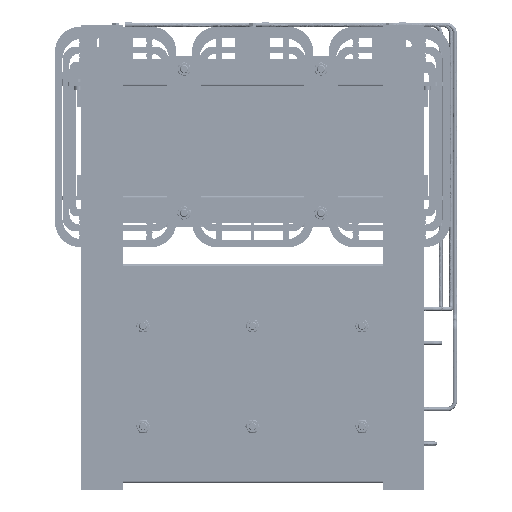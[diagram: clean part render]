
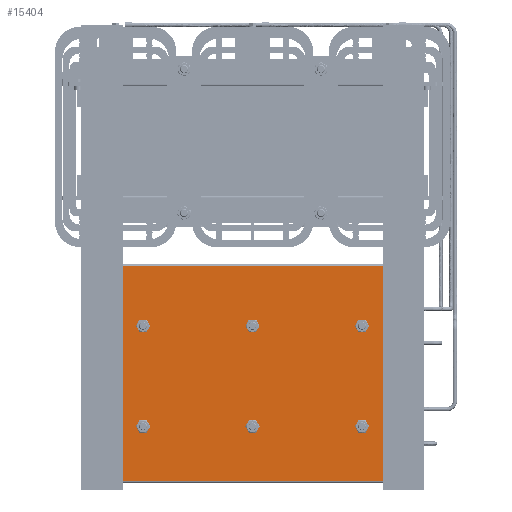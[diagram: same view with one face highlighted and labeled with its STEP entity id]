
A CAD part, front view. The second image highlights one B-rep face of the part: STEP entity #15404.
In plain terms, the highlighted planar face has unit normal (0, -1, 0).
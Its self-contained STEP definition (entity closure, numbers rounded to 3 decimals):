
#15404=ADVANCED_FACE('',(#28387,#28389,#28391,#28393,#28395,#28397,#28399,#28401,
#28403,#28405,#28407),#28409,.F.);
#28387=FACE_BOUND('',#28388,.T.);
#28388=EDGE_LOOP('',(#50232,#50233,#50234,#50235));
#28389=FACE_BOUND('',#28390,.T.);
#28390=EDGE_LOOP('',(#50236,#50237,#50238,#50239));
#28391=FACE_BOUND('',#28392,.T.);
#28392=EDGE_LOOP('',(#50240,#50241,#50242,#50243));
#28393=FACE_BOUND('',#28394,.T.);
#28394=EDGE_LOOP('',(#50244,#50245,#50246,#50247));
#28395=FACE_BOUND('',#28396,.T.);
#28396=EDGE_LOOP('',(#50248,#50249,#50250,#50251));
#28397=FACE_BOUND('',#28398,.T.);
#28398=EDGE_LOOP('',(#50252));
#28399=FACE_BOUND('',#28400,.T.);
#28400=EDGE_LOOP('',(#50253));
#28401=FACE_BOUND('',#28402,.T.);
#28402=EDGE_LOOP('',(#50254));
#28403=FACE_BOUND('',#28404,.T.);
#28404=EDGE_LOOP('',(#50255));
#28405=FACE_BOUND('',#28406,.T.);
#28406=EDGE_LOOP('',(#50256));
#28407=FACE_BOUND('',#28408,.T.);
#28408=EDGE_LOOP('',(#50257));
#28409=PLANE('',#28410);
#28410=AXIS2_PLACEMENT_3D('',#28411,#28412,#28413);
#28411=CARTESIAN_POINT('',(-160.,-60.,240.));
#28412=DIRECTION('',(0.,1.,0.));
#28413=DIRECTION('',(0.,0.,1.));
#50232=ORIENTED_EDGE('',*,*,#56449,.T.);
#50233=ORIENTED_EDGE('',*,*,#56589,.T.);
#50234=ORIENTED_EDGE('',*,*,#56431,.F.);
#50235=ORIENTED_EDGE('',*,*,#56590,.T.);
#50236=ORIENTED_EDGE('',*,*,#56591,.T.);
#50237=ORIENTED_EDGE('',*,*,#56394,.T.);
#50238=ORIENTED_EDGE('',*,*,#56592,.T.);
#50239=ORIENTED_EDGE('',*,*,#56593,.T.);
#50240=ORIENTED_EDGE('',*,*,#56594,.T.);
#50241=ORIENTED_EDGE('',*,*,#56595,.T.);
#50242=ORIENTED_EDGE('',*,*,#56596,.T.);
#50243=ORIENTED_EDGE('',*,*,#56398,.T.);
#50244=ORIENTED_EDGE('',*,*,#56597,.T.);
#50245=ORIENTED_EDGE('',*,*,#56598,.T.);
#50246=ORIENTED_EDGE('',*,*,#56599,.T.);
#50247=ORIENTED_EDGE('',*,*,#56600,.T.);
#50248=ORIENTED_EDGE('',*,*,#56601,.T.);
#50249=ORIENTED_EDGE('',*,*,#56602,.T.);
#50250=ORIENTED_EDGE('',*,*,#56603,.T.);
#50251=ORIENTED_EDGE('',*,*,#56604,.T.);
#50252=ORIENTED_EDGE('',*,*,#56400,.T.);
#50253=ORIENTED_EDGE('',*,*,#56402,.T.);
#50254=ORIENTED_EDGE('',*,*,#56404,.T.);
#50255=ORIENTED_EDGE('',*,*,#56406,.T.);
#50256=ORIENTED_EDGE('',*,*,#56408,.T.);
#50257=ORIENTED_EDGE('',*,*,#56410,.T.);
#56394=EDGE_CURVE('',#60731,#60736,#60738,.T.);
#56398=EDGE_CURVE('',#60739,#60744,#60746,.T.);
#56400=EDGE_CURVE('',#60749,#60749,#60750,.T.);
#56402=EDGE_CURVE('',#60753,#60753,#60754,.T.);
#56404=EDGE_CURVE('',#60757,#60757,#60758,.T.);
#56406=EDGE_CURVE('',#60761,#60761,#60762,.T.);
#56408=EDGE_CURVE('',#60765,#60765,#60766,.T.);
#56410=EDGE_CURVE('',#60769,#60769,#60770,.T.);
#56431=EDGE_CURVE('',#60811,#60812,#60813,.T.);
#56449=EDGE_CURVE('',#60848,#60846,#60849,.T.);
#56589=EDGE_CURVE('',#60846,#60812,#61121,.T.);
#56590=EDGE_CURVE('',#60811,#60848,#61122,.T.);
#56591=EDGE_CURVE('',#61123,#60731,#61124,.T.);
#56592=EDGE_CURVE('',#60736,#61125,#61126,.T.);
#56593=EDGE_CURVE('',#61125,#61123,#61127,.T.);
#56594=EDGE_CURVE('',#60744,#61128,#61129,.T.);
#56595=EDGE_CURVE('',#61128,#61130,#61131,.T.);
#56596=EDGE_CURVE('',#61130,#60739,#61132,.T.);
#56597=EDGE_CURVE('',#61133,#61134,#61135,.T.);
#56598=EDGE_CURVE('',#61134,#61136,#61137,.T.);
#56599=EDGE_CURVE('',#61136,#61138,#61139,.T.);
#56600=EDGE_CURVE('',#61138,#61133,#61140,.T.);
#56601=EDGE_CURVE('',#61141,#61142,#61143,.T.);
#56602=EDGE_CURVE('',#61142,#61144,#61145,.T.);
#56603=EDGE_CURVE('',#61144,#61146,#61147,.T.);
#56604=EDGE_CURVE('',#61146,#61141,#61148,.T.);
#60731=VERTEX_POINT('',#71599);
#60736=VERTEX_POINT('',#71609);
#60738=CIRCLE('',#71613,3.5);
#60739=VERTEX_POINT('',#71617);
#60744=VERTEX_POINT('',#71627);
#60746=CIRCLE('',#71631,3.5);
#60749=VERTEX_POINT('',#71640);
#60750=CIRCLE('',#71641,6.);
#60753=VERTEX_POINT('',#71650);
#60754=CIRCLE('',#71651,6.);
#60757=VERTEX_POINT('',#71660);
#60758=CIRCLE('',#71661,6.);
#60761=VERTEX_POINT('',#71670);
#60762=CIRCLE('',#71671,6.);
#60765=VERTEX_POINT('',#71680);
#60766=CIRCLE('',#71681,6.);
#60769=VERTEX_POINT('',#71690);
#60770=CIRCLE('',#71691,6.);
#60811=VERTEX_POINT('',#71795);
#60812=VERTEX_POINT('',#71796);
#60813=LINE('',#71797,#71798);
#60846=VERTEX_POINT('',#71872);
#60848=VERTEX_POINT('',#71877);
#60849=LINE('',#71878,#71879);
#61121=LINE('',#72497,#72498);
#61122=LINE('',#72500,#72501);
#61123=VERTEX_POINT('',#72503);
#61124=LINE('',#72504,#72505);
#61125=VERTEX_POINT('',#72507);
#61126=LINE('',#72508,#72509);
#61127=CIRCLE('',#72511,3.5);
#61128=VERTEX_POINT('',#72515);
#61129=LINE('',#72516,#72517);
#61130=VERTEX_POINT('',#72519);
#61131=CIRCLE('',#72520,3.5);
#61132=LINE('',#72524,#72525);
#61133=VERTEX_POINT('',#72527);
#61134=VERTEX_POINT('',#72528);
#61135=LINE('',#72529,#72530);
#61136=VERTEX_POINT('',#72532);
#61137=CIRCLE('',#72533,3.5);
#61138=VERTEX_POINT('',#72537);
#61139=LINE('',#72538,#72539);
#61140=CIRCLE('',#72541,3.5);
#61141=VERTEX_POINT('',#72545);
#61142=VERTEX_POINT('',#72546);
#61143=LINE('',#72547,#72548);
#61144=VERTEX_POINT('',#72550);
#61145=CIRCLE('',#72551,3.5);
#61146=VERTEX_POINT('',#72555);
#61147=LINE('',#72556,#72557);
#61148=CIRCLE('',#72559,3.5);
#71599=CARTESIAN_POINT('',(141.5,-60.,218.5));
#71609=CARTESIAN_POINT('',(148.5,-60.,218.5));
#71613=AXIS2_PLACEMENT_3D('',#71614,#71615,#71616);
#71614=CARTESIAN_POINT('',(145.,-60.,218.5));
#71615=DIRECTION('',(0.,1.,0.));
#71616=DIRECTION('',(-1.,0.,0.));
#71617=CARTESIAN_POINT('',(-148.5,-60.,-211.5));
#71627=CARTESIAN_POINT('',(-141.5,-60.,-211.5));
#71631=AXIS2_PLACEMENT_3D('',#71632,#71633,#71634);
#71632=CARTESIAN_POINT('',(-145.,-60.,-211.5));
#71633=DIRECTION('',(0.,1.,0.));
#71634=DIRECTION('',(-1.,0.,0.));
#71640=CARTESIAN_POINT('',(-70.,-60.,6.));
#71641=AXIS2_PLACEMENT_3D('',#71642,#71643,#71644);
#71642=CARTESIAN_POINT('',(-70.,-60.,0.));
#71643=DIRECTION('',(0.,1.,0.));
#71644=DIRECTION('',(0.,0.,-1.));
#71650=CARTESIAN_POINT('',(-70.,-60.,-154.));
#71651=AXIS2_PLACEMENT_3D('',#71652,#71653,#71654);
#71652=CARTESIAN_POINT('',(-70.,-60.,-160.));
#71653=DIRECTION('',(0.,1.,0.));
#71654=DIRECTION('',(0.,0.,-1.));
#71660=CARTESIAN_POINT('',(77.,-60.,166.));
#71661=AXIS2_PLACEMENT_3D('',#71662,#71663,#71664);
#71662=CARTESIAN_POINT('',(77.,-60.,160.));
#71663=DIRECTION('',(0.,1.,0.));
#71664=DIRECTION('',(0.,0.,-1.));
#71670=CARTESIAN_POINT('',(77.,-60.,6.));
#71671=AXIS2_PLACEMENT_3D('',#71672,#71673,#71674);
#71672=CARTESIAN_POINT('',(77.,-60.,0.));
#71673=DIRECTION('',(0.,1.,0.));
#71674=DIRECTION('',(0.,0.,-1.));
#71680=CARTESIAN_POINT('',(77.,-60.,-154.));
#71681=AXIS2_PLACEMENT_3D('',#71682,#71683,#71684);
#71682=CARTESIAN_POINT('',(77.,-60.,-160.));
#71683=DIRECTION('',(0.,1.,0.));
#71684=DIRECTION('',(0.,0.,-1.));
#71690=CARTESIAN_POINT('',(-70.,-60.,166.));
#71691=AXIS2_PLACEMENT_3D('',#71692,#71693,#71694);
#71692=CARTESIAN_POINT('',(-70.,-60.,160.));
#71693=DIRECTION('',(0.,1.,0.));
#71694=DIRECTION('',(0.,0.,-1.));
#71795=CARTESIAN_POINT('',(-157.,-60.,240.));
#71796=CARTESIAN_POINT('',(157.,-60.,240.));
#71797=CARTESIAN_POINT('',(-157.,-60.,240.));
#71798=VECTOR('',#71799,1.);
#71799=DIRECTION('',(1.,0.,0.));
#71872=CARTESIAN_POINT('',(157.,-60.,-240.));
#71877=CARTESIAN_POINT('',(-157.,-60.,-240.));
#71878=CARTESIAN_POINT('',(-157.,-60.,-240.));
#71879=VECTOR('',#71880,1.);
#71880=DIRECTION('',(1.,0.,0.));
#72497=CARTESIAN_POINT('',(157.,-60.,-240.));
#72498=VECTOR('',#72499,1.);
#72499=DIRECTION('',(0.,0.,1.));
#72500=CARTESIAN_POINT('',(-157.,-60.,240.));
#72501=VECTOR('',#72502,1.);
#72502=DIRECTION('',(0.,0.,-1.));
#72503=CARTESIAN_POINT('',(141.5,-60.,211.5));
#72504=CARTESIAN_POINT('',(141.5,-60.,211.5));
#72505=VECTOR('',#72506,1.);
#72506=DIRECTION('',(0.,0.,1.));
#72507=CARTESIAN_POINT('',(148.5,-60.,211.5));
#72508=CARTESIAN_POINT('',(148.5,-60.,218.5));
#72509=VECTOR('',#72510,1.);
#72510=DIRECTION('',(0.,0.,-1.));
#72511=AXIS2_PLACEMENT_3D('',#72512,#72513,#72514);
#72512=CARTESIAN_POINT('',(145.,-60.,211.5));
#72513=DIRECTION('',(0.,1.,0.));
#72514=DIRECTION('',(1.,0.,0.));
#72515=CARTESIAN_POINT('',(-141.5,-60.,-218.5));
#72516=CARTESIAN_POINT('',(-141.5,-60.,-211.5));
#72517=VECTOR('',#72518,1.);
#72518=DIRECTION('',(0.,0.,-1.));
#72519=CARTESIAN_POINT('',(-148.5,-60.,-218.5));
#72520=AXIS2_PLACEMENT_3D('',#72521,#72522,#72523);
#72521=CARTESIAN_POINT('',(-145.,-60.,-218.5));
#72522=DIRECTION('',(0.,1.,0.));
#72523=DIRECTION('',(1.,0.,0.));
#72524=CARTESIAN_POINT('',(-148.5,-60.,-218.5));
#72525=VECTOR('',#72526,1.);
#72526=DIRECTION('',(0.,0.,1.));
#72527=CARTESIAN_POINT('',(141.5,-60.,-211.5));
#72528=CARTESIAN_POINT('',(148.5,-60.,-211.5));
#72529=CARTESIAN_POINT('',(141.5,-60.,-211.5));
#72530=VECTOR('',#72531,1.);
#72531=DIRECTION('',(1.,0.,0.));
#72532=CARTESIAN_POINT('',(148.5,-60.,-218.5));
#72533=AXIS2_PLACEMENT_3D('',#72534,#72535,#72536);
#72534=CARTESIAN_POINT('',(148.5,-60.,-215.));
#72535=DIRECTION('',(0.,1.,0.));
#72536=DIRECTION('',(0.,0.,1.));
#72537=CARTESIAN_POINT('',(141.5,-60.,-218.5));
#72538=CARTESIAN_POINT('',(148.5,-60.,-218.5));
#72539=VECTOR('',#72540,1.);
#72540=DIRECTION('',(-1.,0.,0.));
#72541=AXIS2_PLACEMENT_3D('',#72542,#72543,#72544);
#72542=CARTESIAN_POINT('',(141.5,-60.,-215.));
#72543=DIRECTION('',(0.,1.,0.));
#72544=DIRECTION('',(0.,0.,-1.));
#72545=CARTESIAN_POINT('',(-148.5,-60.,218.5));
#72546=CARTESIAN_POINT('',(-141.5,-60.,218.5));
#72547=CARTESIAN_POINT('',(-148.5,-60.,218.5));
#72548=VECTOR('',#72549,1.);
#72549=DIRECTION('',(1.,0.,0.));
#72550=CARTESIAN_POINT('',(-141.5,-60.,211.5));
#72551=AXIS2_PLACEMENT_3D('',#72552,#72553,#72554);
#72552=CARTESIAN_POINT('',(-141.5,-60.,215.));
#72553=DIRECTION('',(0.,1.,0.));
#72554=DIRECTION('',(0.,0.,1.));
#72555=CARTESIAN_POINT('',(-148.5,-60.,211.5));
#72556=CARTESIAN_POINT('',(-141.5,-60.,211.5));
#72557=VECTOR('',#72558,1.);
#72558=DIRECTION('',(-1.,0.,0.));
#72559=AXIS2_PLACEMENT_3D('',#72560,#72561,#72562);
#72560=CARTESIAN_POINT('',(-148.5,-60.,215.));
#72561=DIRECTION('',(0.,1.,0.));
#72562=DIRECTION('',(0.,0.,-1.));
